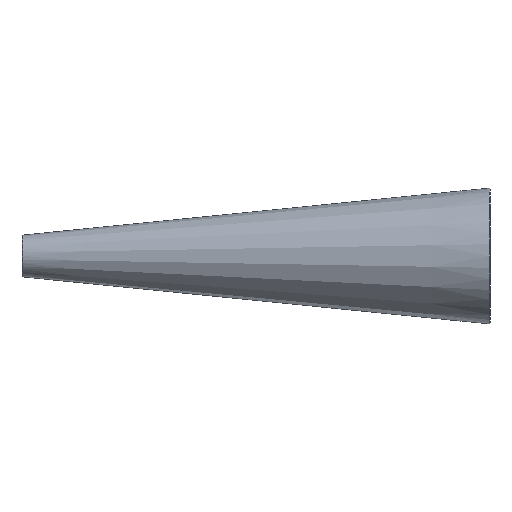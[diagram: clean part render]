
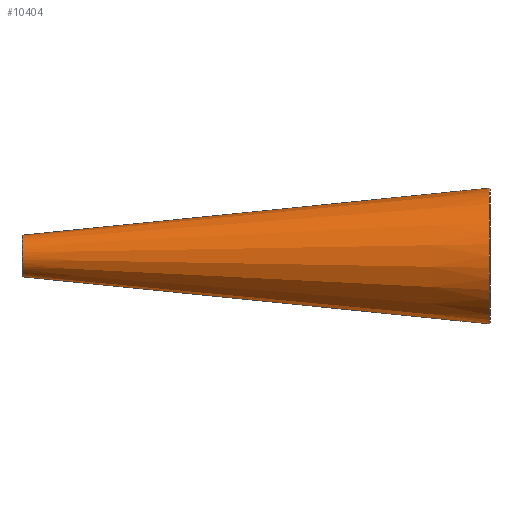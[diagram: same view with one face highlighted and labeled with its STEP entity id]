
A CAD part, left-side view. The second image highlights one B-rep face of the part: STEP entity #10404.
In plain terms, the highlighted conical face has half-angle 5.75 degrees and reference radius 20 mm.
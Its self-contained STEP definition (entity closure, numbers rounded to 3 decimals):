
#447 = VECTOR ( 'NONE', #8610, 1000. ) ;
#1429 = CONICAL_SURFACE ( 'NONE', #9387, 20., 0.1 ) ;
#1666 = VERTEX_POINT ( 'NONE', #11649 ) ;
#1864 = DIRECTION ( 'NONE',  ( 0., -0.995, 0.1 ) ) ;
#1930 = AXIS2_PLACEMENT_3D ( 'NONE', #9860, #4638, #2687 ) ;
#1993 = EDGE_CURVE ( 'NONE', #6345, #1666, #8714, .T. ) ;
#2103 = CARTESIAN_POINT ( 'NONE',  ( 0., 150., 0. ) ) ;
#2368 = CARTESIAN_POINT ( 'NONE',  ( 0., 149.204, 0. ) ) ;
#2431 = CARTESIAN_POINT ( 'NONE',  ( 0., 149.204, -20.08 ) ) ;
#2687 = DIRECTION ( 'NONE',  ( 0., 0., -1. ) ) ;
#3680 = LINE ( 'NONE', #10953, #8833 ) ;
#4217 = DIRECTION ( 'NONE',  ( 0., -1., 0. ) ) ;
#4356 = CARTESIAN_POINT ( 'NONE',  ( 0., 149.204, 20.08 ) ) ;
#4464 = DIRECTION ( 'NONE',  ( 0., 0., -1. ) ) ;
#4638 = DIRECTION ( 'NONE',  ( 0., 1., 0. ) ) ;
#4902 = LINE ( 'NONE', #5809, #447 ) ;
#4979 = DIRECTION ( 'NONE',  ( 0., 0., -1. ) ) ;
#5809 = CARTESIAN_POINT ( 'NONE',  ( 0., 150., -20. ) ) ;
#6243 = VERTEX_POINT ( 'NONE', #2431 ) ;
#6345 = VERTEX_POINT ( 'NONE', #9362 ) ;
#6737 = ORIENTED_EDGE ( 'NONE', *, *, #6816, .T. ) ;
#6816 = EDGE_CURVE ( 'NONE', #6243, #6345, #4902, .T. ) ;
#6842 = CIRCLE ( 'NONE', #11115, 20.08 ) ;
#7042 = DIRECTION ( 'NONE',  ( 0., -1., 0. ) ) ;
#7827 = EDGE_LOOP ( 'NONE', ( #9736, #11123, #6737, #10760 ) ) ;
#8610 = DIRECTION ( 'NONE',  ( 0., -0.995, -0.1 ) ) ;
#8714 = CIRCLE ( 'NONE', #1930, 65.232 ) ;
#8833 = VECTOR ( 'NONE', #1864, 1000. ) ;
#8995 = VERTEX_POINT ( 'NONE', #4356 ) ;
#9362 = CARTESIAN_POINT ( 'NONE',  ( 0., -299.204, -65.232 ) ) ;
#9387 = AXIS2_PLACEMENT_3D ( 'NONE', #2103, #4217, #4464 ) ;
#9578 = FACE_OUTER_BOUND ( 'NONE', #7827, .T. ) ;
#9736 = ORIENTED_EDGE ( 'NONE', *, *, #11730, .F. ) ;
#9791 = EDGE_CURVE ( 'NONE', #8995, #6243, #6842, .T. ) ;
#9860 = CARTESIAN_POINT ( 'NONE',  ( 0., -299.204, 0. ) ) ;
#10404 = ADVANCED_FACE ( 'NONE', ( #9578 ), #1429, .T. ) ;
#10760 = ORIENTED_EDGE ( 'NONE', *, *, #1993, .T. ) ;
#10953 = CARTESIAN_POINT ( 'NONE',  ( 0., 150., 20. ) ) ;
#11115 = AXIS2_PLACEMENT_3D ( 'NONE', #2368, #7042, #4979 ) ;
#11123 = ORIENTED_EDGE ( 'NONE', *, *, #9791, .T. ) ;
#11649 = CARTESIAN_POINT ( 'NONE',  ( 0., -299.204, 65.232 ) ) ;
#11730 = EDGE_CURVE ( 'NONE', #8995, #1666, #3680, .T. ) ;
